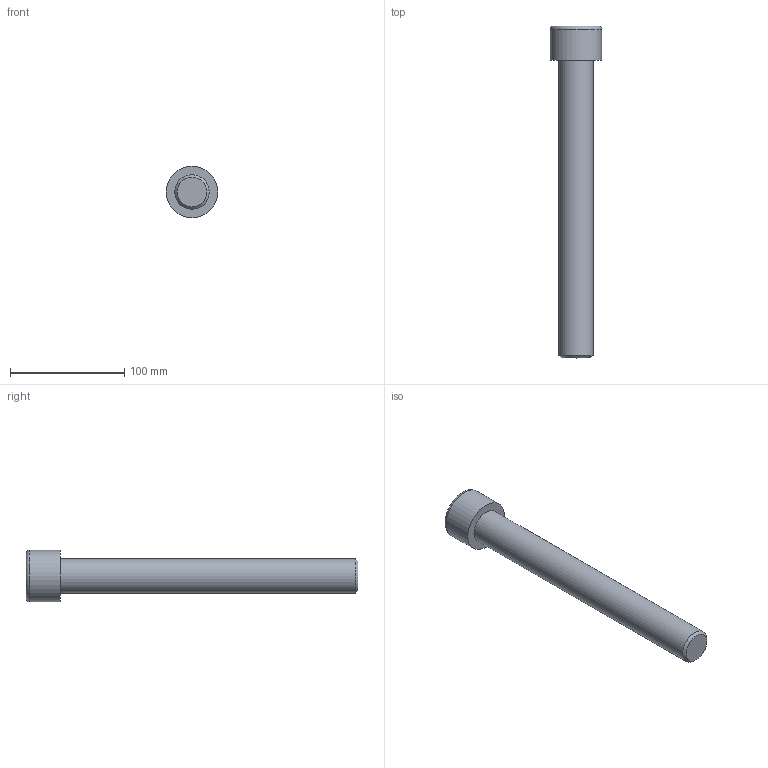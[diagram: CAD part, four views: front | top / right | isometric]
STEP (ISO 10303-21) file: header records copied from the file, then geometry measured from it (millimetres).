
FILE_DESCRIPTION(/* description */ (''),/* implementation_level */ '2;1');
FILE_NAME(/* name */ 'C:\Users\D\Documents\Inventor\各種小物\JIS\JIS B 1176 六角穴付きボルト\M30x260.stp',/* time_stamp */ '2022-05-09T19:01:39+09:00',/* author */ ('D'),/* organization */ (''),/* preprocessor_version */ 'ST-DEVELOPER v18',/* originating_system */ 'Autodesk Inventor 2020',/* authorisation */ '');
FILE_SCHEMA (('AUTOMOTIVE_DESIGN { 1 0 10303 214 3 1 1 }'));
Length unit declared in the file: millimetre
Products named in the file (1): M1.6x2.5
Bounding box: 45 x 290 x 45 mm (x, y, z)
Volume: 223321.9 mm3; surface area: 32911 mm2
Topology: 1 solids, 1 shells, 14 faces, 33 edges, 22 vertices
Faces by surface type: plane 9, cone 2, cylinder 2, torus 1
Full cylindrical faces by diameter (mm): 30 x1, 45 x1
Entity records: 435 total; most frequent: CARTESIAN_POINT 83, ORIENTED_EDGE 64, DIRECTION 64, EDGE_CURVE 32, AXIS2_PLACEMENT_3D 24, VERTEX_POINT 22, EDGE_LOOP 16, LINE 16
